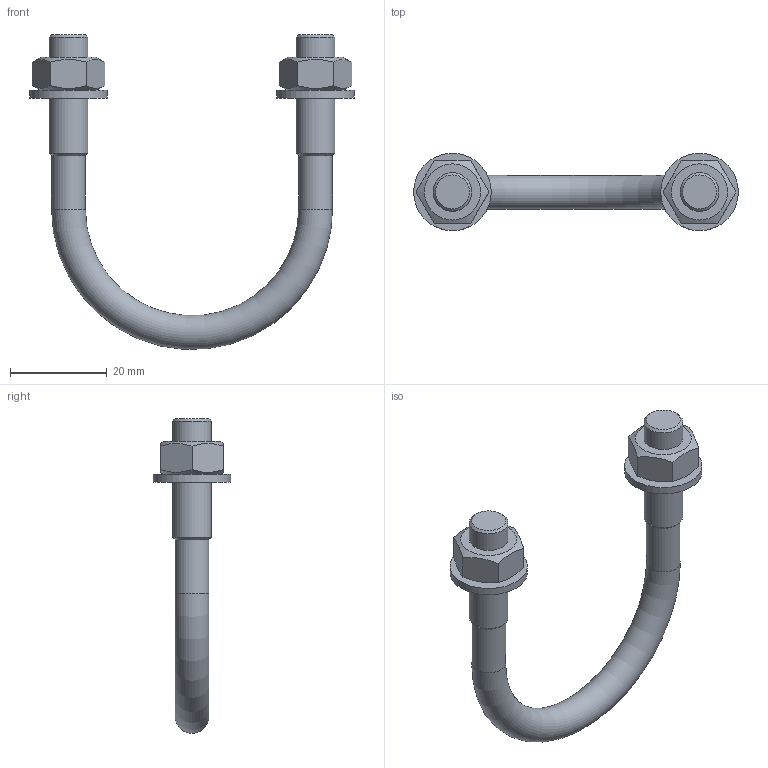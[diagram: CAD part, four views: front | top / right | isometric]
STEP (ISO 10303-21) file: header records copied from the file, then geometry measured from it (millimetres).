
FILE_DESCRIPTION((''),'2;1');
FILE_NAME('S:\Användarkataloger\AndreasA\Mina Inventor filer\Räcken\STEP\bygelskruv_U42_kpl.stp','2010-09-07T13:54:37',('AndreasA'),(''),'Autodesk Inventor 2011','Autodesk Inventor 2011','');
FILE_SCHEMA(('AUTOMOTIVE_DESIGN { 1 0 10303 214 1 1 1 1 }'));
Length unit declared in the file: millimetre
Products named in the file (4): bygelskruv_U42_kpl; bygelskruv_U42; SS 3576 8; ISO 4032 M8
Assembly tree (5 placements, depth 2):
  bygelskruv_U42_kpl
    bygelskruv_U42
    SS 3576 8  x2
    ISO 4032 M8  x2
Bounding box: 67 x 16 x 64.95 mm (x, y, z)
Volume: 8349.9 mm3; surface area: 5660 mm2
Topology: 5 solids, 5 shells, 45 faces, 93 edges, 58 vertices
Faces by surface type: plane 22, cone 12, cylinder 10, torus 1
Full cylindrical faces by diameter (mm): 6.647 x2, 7 x2, 8 x2, 8.4 x2, 16 x2
Entity records: 753 total; most frequent: CARTESIAN_POINT 131, DIRECTION 120, ORIENTED_EDGE 76, AXIS2_PLACEMENT_3D 57, EDGE_LOOP 48, EDGE_CURVE 38, VERTEX_POINT 32, FACE_OUTER_BOUND 28
